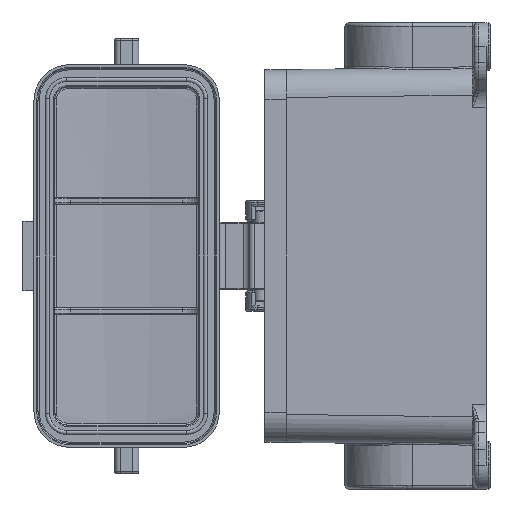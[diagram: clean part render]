
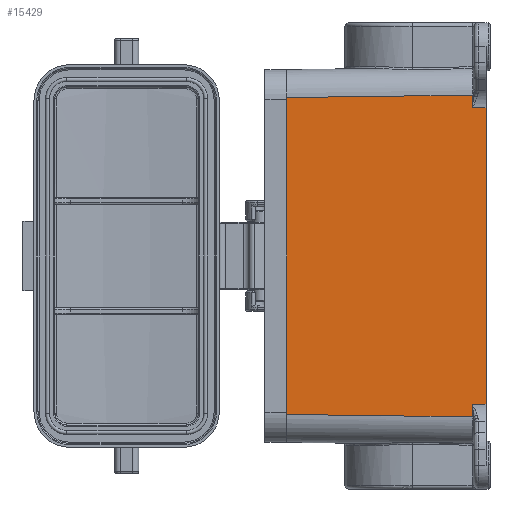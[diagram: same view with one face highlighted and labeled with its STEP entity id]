
A CAD part, left-side view. The second image highlights one B-rep face of the part: STEP entity #15429.
In plain terms, the highlighted planar face has unit normal (-1, 0.013, 0).
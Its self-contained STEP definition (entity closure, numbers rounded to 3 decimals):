
#397 = EDGE_LOOP ( 'NONE', ( #26967, #8639, #26297, #3969, #20584, #626, #8576, #29965, #25662, #28264 ) ) ;
#626 = ORIENTED_EDGE ( 'NONE', *, *, #28917, .T. ) ;
#721 = LINE ( 'NONE', #18078, #3792 ) ;
#1452 = DIRECTION ( 'NONE',  ( 0., 0., 1. ) ) ;
#1484 = VECTOR ( 'NONE', #14544, 1000. ) ;
#1517 = CARTESIAN_POINT ( 'NONE',  ( -22.155, -18.235, 37.183 ) ) ;
#1569 = VERTEX_POINT ( 'NONE', #21424 ) ;
#1655 = CARTESIAN_POINT ( 'NONE',  ( -21.5, 31.765, 39.751 ) ) ;
#2062 = CARTESIAN_POINT ( 'NONE',  ( -22.155, -18.235, -37.183 ) ) ;
#2623 = DIRECTION ( 'NONE',  ( 0., 0., 1. ) ) ;
#3126 = DIRECTION ( 'NONE',  ( 0., 0., 1. ) ) ;
#3197 = VECTOR ( 'NONE', #1452, 1000. ) ;
#3214 = CARTESIAN_POINT ( 'NONE',  ( -21.5, 31.765, -49.123 ) ) ;
#3792 = VECTOR ( 'NONE', #25653, 1000. ) ;
#3969 = ORIENTED_EDGE ( 'NONE', *, *, #10603, .T. ) ;
#4598 = EDGE_CURVE ( 'NONE', #19532, #1569, #22002, .T. ) ;
#4993 = CARTESIAN_POINT ( 'NONE',  ( -22.109, -14.741, -49.123 ) ) ;
#5229 = VERTEX_POINT ( 'NONE', #2062 ) ;
#5230 = LINE ( 'NONE', #6522, #9059 ) ;
#5358 = VERTEX_POINT ( 'NONE', #24658 ) ;
#5474 = EDGE_CURVE ( 'NONE', #24313, #15877, #18550, .T. ) ;
#6008 = LINE ( 'NONE', #14905, #11033 ) ;
#6522 = CARTESIAN_POINT ( 'NONE',  ( -22.109, -14.741, -37.138 ) ) ;
#7962 = EDGE_CURVE ( 'NONE', #5229, #20003, #23401, .T. ) ;
#8376 = CARTESIAN_POINT ( 'NONE',  ( -21.5, 31.765, 39.25 ) ) ;
#8445 = VECTOR ( 'NONE', #3126, 1000. ) ;
#8576 = ORIENTED_EDGE ( 'NONE', *, *, #20173, .T. ) ;
#8639 = ORIENTED_EDGE ( 'NONE', *, *, #7962, .T. ) ;
#9059 = VECTOR ( 'NONE', #21413, 1000. ) ;
#9801 = AXIS2_PLACEMENT_3D ( 'NONE', #29996, #20120, #15315 ) ;
#10603 = EDGE_CURVE ( 'NONE', #5358, #30100, #31001, .T. ) ;
#11033 = VECTOR ( 'NONE', #19825, 1000. ) ;
#11353 = VERTEX_POINT ( 'NONE', #8376 ) ;
#11462 = EDGE_CURVE ( 'NONE', #15877, #19532, #19416, .T. ) ;
#12089 = DIRECTION ( 'NONE',  ( 0.013, 1., -0.013 ) ) ;
#12098 = CARTESIAN_POINT ( 'NONE',  ( -21.496, 32.059, 36.525 ) ) ;
#12112 = PLANE ( 'NONE',  #9801 ) ;
#12123 = VECTOR ( 'NONE', #12089, 1000. ) ;
#12806 = CARTESIAN_POINT ( 'NONE',  ( -22.155, -18.235, 0. ) ) ;
#12886 = VECTOR ( 'NONE', #16118, 1000. ) ;
#13420 = CARTESIAN_POINT ( 'NONE',  ( -21.5, 31.765, -39.751 ) ) ;
#14544 = DIRECTION ( 'NONE',  ( 0.013, 1., -0.013 ) ) ;
#14905 = CARTESIAN_POINT ( 'NONE',  ( -21.5, 31.765, -49.123 ) ) ;
#15315 = DIRECTION ( 'NONE',  ( -0.013, -1., 0. ) ) ;
#15429 = ADVANCED_FACE ( 'NONE', ( #27328 ), #12112, .T. ) ;
#15586 = DIRECTION ( 'NONE',  ( 0., 0., -1. ) ) ;
#15877 = VERTEX_POINT ( 'NONE', #27061 ) ;
#16118 = DIRECTION ( 'NONE',  ( -0.013, -1., -0.013 ) ) ;
#18078 = CARTESIAN_POINT ( 'NONE',  ( -21.5, 31.765, -49.123 ) ) ;
#18550 = LINE ( 'NONE', #3214, #30833 ) ;
#19298 = CARTESIAN_POINT ( 'NONE',  ( -21.5, 31.765, -39.25 ) ) ;
#19416 = LINE ( 'NONE', #13420, #12886 ) ;
#19466 = CARTESIAN_POINT ( 'NONE',  ( -22.109, -14.741, 40.359 ) ) ;
#19532 = VERTEX_POINT ( 'NONE', #19962 ) ;
#19825 = DIRECTION ( 'NONE',  ( 0., 0., -1. ) ) ;
#19962 = CARTESIAN_POINT ( 'NONE',  ( -22.109, -14.741, -40.359 ) ) ;
#20003 = VERTEX_POINT ( 'NONE', #1517 ) ;
#20120 = DIRECTION ( 'NONE',  ( -1., 0.013, 0. ) ) ;
#20173 = EDGE_CURVE ( 'NONE', #11353, #24313, #6008, .T. ) ;
#20584 = ORIENTED_EDGE ( 'NONE', *, *, #21983, .T. ) ;
#21328 = EDGE_CURVE ( 'NONE', #1569, #5229, #5230, .T. ) ;
#21413 = DIRECTION ( 'NONE',  ( -0.013, -1., -0.013 ) ) ;
#21424 = CARTESIAN_POINT ( 'NONE',  ( -22.109, -14.741, -37.138 ) ) ;
#21983 = EDGE_CURVE ( 'NONE', #30100, #27674, #24015, .T. ) ;
#22002 = LINE ( 'NONE', #25920, #3197 ) ;
#23401 = LINE ( 'NONE', #12806, #8445 ) ;
#24015 = LINE ( 'NONE', #19466, #12123 ) ;
#24313 = VERTEX_POINT ( 'NONE', #19298 ) ;
#24428 = VECTOR ( 'NONE', #2623, 1000. ) ;
#24658 = CARTESIAN_POINT ( 'NONE',  ( -22.109, -14.741, 37.138 ) ) ;
#25653 = DIRECTION ( 'NONE',  ( 0., 0., -1. ) ) ;
#25662 = ORIENTED_EDGE ( 'NONE', *, *, #11462, .T. ) ;
#25920 = CARTESIAN_POINT ( 'NONE',  ( -22.109, -14.741, -49.123 ) ) ;
#26297 = ORIENTED_EDGE ( 'NONE', *, *, #28775, .T. ) ;
#26830 = LINE ( 'NONE', #12098, #1484 ) ;
#26967 = ORIENTED_EDGE ( 'NONE', *, *, #21328, .T. ) ;
#27061 = CARTESIAN_POINT ( 'NONE',  ( -21.5, 31.765, -39.751 ) ) ;
#27328 = FACE_OUTER_BOUND ( 'NONE', #397, .T. ) ;
#27674 = VERTEX_POINT ( 'NONE', #1655 ) ;
#28264 = ORIENTED_EDGE ( 'NONE', *, *, #4598, .T. ) ;
#28775 = EDGE_CURVE ( 'NONE', #20003, #5358, #26830, .T. ) ;
#28917 = EDGE_CURVE ( 'NONE', #27674, #11353, #721, .T. ) ;
#29965 = ORIENTED_EDGE ( 'NONE', *, *, #5474, .T. ) ;
#29996 = CARTESIAN_POINT ( 'NONE',  ( -21.5, 31.765, -49.123 ) ) ;
#30100 = VERTEX_POINT ( 'NONE', #31571 ) ;
#30833 = VECTOR ( 'NONE', #15586, 1000. ) ;
#31001 = LINE ( 'NONE', #4993, #24428 ) ;
#31571 = CARTESIAN_POINT ( 'NONE',  ( -22.109, -14.741, 40.359 ) ) ;
